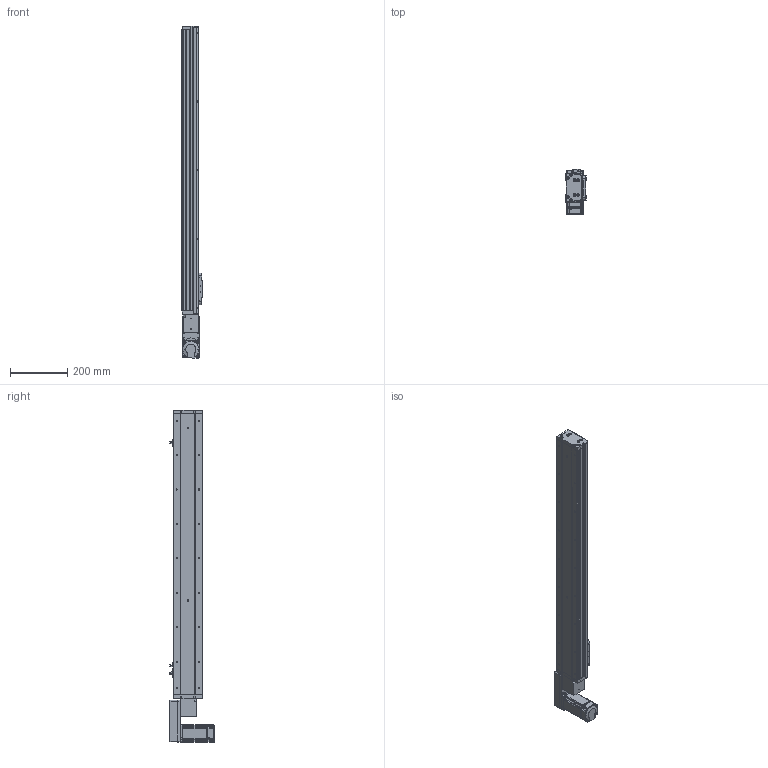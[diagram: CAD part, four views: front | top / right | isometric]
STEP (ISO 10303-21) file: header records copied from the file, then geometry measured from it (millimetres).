
FILE_DESCRIPTION (( 'STEP AP203' ), '1' );
FILE_NAME ('KSD100B-S800-MLB-CR.STEP', '2019-09-06T07:53:46', ( '微软用户' ), ( '微软中国' ), 'SwSTEP 2.0', 'SolidWorks 2014', '' );
FILE_SCHEMA (( 'CONFIG_CONTROL_DESIGN' ));
Length unit declared in the file: millimetre
Products named in the file (15): MHMD042G1CA_2_03; 100宽滚珠螺姆安装板1防护罩; KSD100B-S800-MLB-CR; 100宽端板同步带全封闭; 100遵鎮湛假蚾啣蜊; 100宽马达安装板同步带左; 100宽底板全封闭800行程同步带; U倰嫖萇EEㄜSX672; 100宽侧板800行程同步带; 感应片100宽全封闭; 100遵裔啣800俴最; 100宽马达安装板连板上下折丝杆同步带; 100遵裔啣揤啣; 悵誘欶奻狟殏; 100宽滚珠螺姆安装板1
Assembly tree (18 placements, depth 2):
  KSD100B-S800-MLB-CR
    100宽底板全封闭800行程同步带
    100宽侧板800行程同步带  x2
    100遵裔啣800俴最
    100遵裔啣揤啣  x2
    100宽滚珠螺姆安装板1
    100宽滚珠螺姆安装板1防护罩
    100宽端板同步带全封闭
    100遵鎮湛假蚾啣蜊
    100宽马达安装板同步带左
    U倰嫖萇EEㄜSX672  x3
    感应片100宽全封闭
    100宽马达安装板连板上下折丝杆同步带
    悵誘欶奻狟殏
    MHMD042G1CA_2_03
Bounding box: 70 x 156.2 x 1157 mm (x, y, z)
Volume: 2147457.2 mm3; surface area: 959738.7 mm2
Topology: 17 solids, 18 shells, 1761 faces, 4914 edges, 3149 vertices
Faces by surface type: cylinder 785, plane 733, cone 223, bspline 20
Entity records: 50513 total; most frequent: CARTESIAN_POINT 9522, DIRECTION 8552, ORIENTED_EDGE 7896, EDGE_CURVE 4020, AXIS2_PLACEMENT_3D 3089, VERTEX_POINT 2667, LINE 2374, VECTOR 2374
